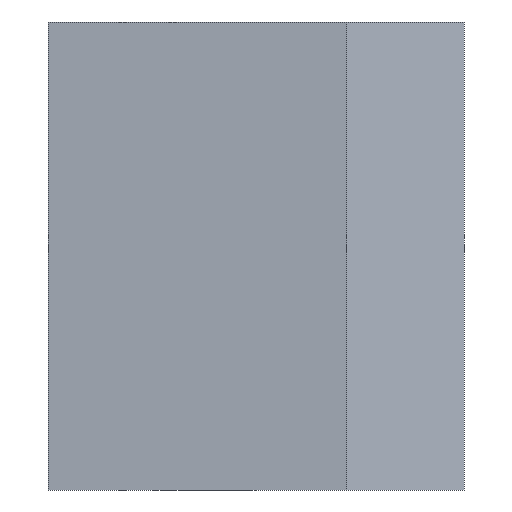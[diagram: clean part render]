
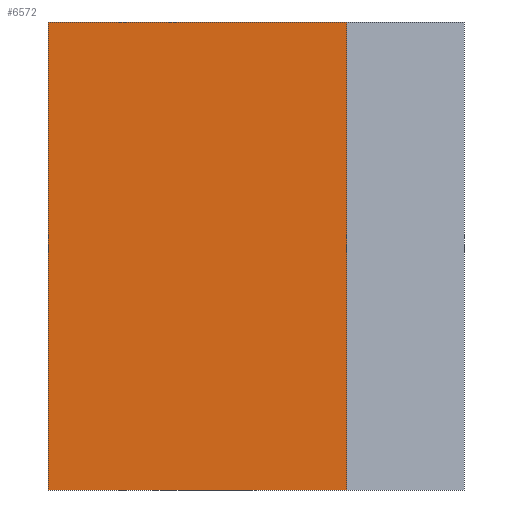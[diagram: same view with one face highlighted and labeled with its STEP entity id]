
A CAD part, front view. The second image highlights one B-rep face of the part: STEP entity #6572.
In plain terms, the highlighted planar face has unit normal (0, -1, 0).
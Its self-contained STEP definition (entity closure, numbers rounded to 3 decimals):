
#44 = PLANE('',#45);
#45 = AXIS2_PLACEMENT_3D('',#46,#47,#48);
#46 = CARTESIAN_POINT('',(-17.,-8.,-31.5));
#47 = DIRECTION('',(-1.,0.,0.));
#48 = DIRECTION('',(0.,1.,0.));
#72 = PLANE('',#73);
#73 = AXIS2_PLACEMENT_3D('',#74,#75,#76);
#74 = CARTESIAN_POINT('',(-12.48,40.278,-22.5));
#75 = DIRECTION('',(0.,0.,-1.));
#76 = DIRECTION('',(0.,1.,0.));
#126 = PLANE('',#127);
#127 = AXIS2_PLACEMENT_3D('',#128,#129,#130);
#128 = CARTESIAN_POINT('',(-12.48,40.278,-31.5));
#129 = DIRECTION('',(0.,0.,-1.));
#130 = DIRECTION('',(0.,1.,0.));
#141 = EDGE_CURVE('',#142,#144,#146,.T.);
#142 = VERTEX_POINT('',#143);
#143 = CARTESIAN_POINT('',(-17.,-8.,-31.5));
#144 = VERTEX_POINT('',#145);
#145 = CARTESIAN_POINT('',(-17.,-8.,-22.5));
#146 = SURFACE_CURVE('',#147,(#151,#158),.PCURVE_S1.);
#147 = LINE('',#148,#149);
#148 = CARTESIAN_POINT('',(-17.,-8.,-31.5));
#149 = VECTOR('',#150,1.);
#150 = DIRECTION('',(0.,0.,1.));
#151 = PCURVE('',#44,#152);
#152 = DEFINITIONAL_REPRESENTATION('',(#153),#157);
#153 = LINE('',#154,#155);
#154 = CARTESIAN_POINT('',(0.,0.));
#155 = VECTOR('',#156,1.);
#156 = DIRECTION('',(0.,-1.));
#157 = ( GEOMETRIC_REPRESENTATION_CONTEXT(2) 
PARAMETRIC_REPRESENTATION_CONTEXT() REPRESENTATION_CONTEXT('2D SPACE',''
  ) );
#158 = PCURVE('',#159,#164);
#159 = PLANE('',#160);
#160 = AXIS2_PLACEMENT_3D('',#161,#162,#163);
#161 = CARTESIAN_POINT('',(-11.25,-8.,-31.5));
#162 = DIRECTION('',(0.,-1.,0.));
#163 = DIRECTION('',(-1.,0.,0.));
#164 = DEFINITIONAL_REPRESENTATION('',(#165),#169);
#165 = LINE('',#166,#167);
#166 = CARTESIAN_POINT('',(5.75,0.));
#167 = VECTOR('',#168,1.);
#168 = DIRECTION('',(0.,-1.));
#169 = ( GEOMETRIC_REPRESENTATION_CONTEXT(2) 
PARAMETRIC_REPRESENTATION_CONTEXT() REPRESENTATION_CONTEXT('2D SPACE',''
  ) );
#3623 = VERTEX_POINT('',#3624);
#3624 = CARTESIAN_POINT('',(-11.25,-8.,-31.5));
#3638 = PLANE('',#3639);
#3639 = AXIS2_PLACEMENT_3D('',#3640,#3641,#3642);
#3640 = CARTESIAN_POINT('',(-11.25,-5.917,-31.5));
#3641 = DIRECTION('',(1.,0.,0.));
#3642 = DIRECTION('',(0.,-1.,0.));
#3650 = EDGE_CURVE('',#3623,#142,#3651,.T.);
#3651 = SURFACE_CURVE('',#3652,(#3656,#3663),.PCURVE_S1.);
#3652 = LINE('',#3653,#3654);
#3653 = CARTESIAN_POINT('',(-11.25,-8.,-31.5));
#3654 = VECTOR('',#3655,1.);
#3655 = DIRECTION('',(-1.,0.,0.));
#3656 = PCURVE('',#126,#3657);
#3657 = DEFINITIONAL_REPRESENTATION('',(#3658),#3662);
#3658 = LINE('',#3659,#3660);
#3659 = CARTESIAN_POINT('',(-48.278,1.23));
#3660 = VECTOR('',#3661,1.);
#3661 = DIRECTION('',(0.,-1.));
#3662 = ( GEOMETRIC_REPRESENTATION_CONTEXT(2) 
PARAMETRIC_REPRESENTATION_CONTEXT() REPRESENTATION_CONTEXT('2D SPACE',''
  ) );
#3663 = PCURVE('',#159,#3664);
#3664 = DEFINITIONAL_REPRESENTATION('',(#3665),#3669);
#3665 = LINE('',#3666,#3667);
#3666 = CARTESIAN_POINT('',(0.,0.));
#3667 = VECTOR('',#3668,1.);
#3668 = DIRECTION('',(1.,0.));
#3669 = ( GEOMETRIC_REPRESENTATION_CONTEXT(2) 
PARAMETRIC_REPRESENTATION_CONTEXT() REPRESENTATION_CONTEXT('2D SPACE',''
  ) );
#6477 = VERTEX_POINT('',#6478);
#6478 = CARTESIAN_POINT('',(-11.25,-8.,-22.5));
#6499 = EDGE_CURVE('',#6477,#144,#6500,.T.);
#6500 = SURFACE_CURVE('',#6501,(#6505,#6512),.PCURVE_S1.);
#6501 = LINE('',#6502,#6503);
#6502 = CARTESIAN_POINT('',(-11.25,-8.,-22.5));
#6503 = VECTOR('',#6504,1.);
#6504 = DIRECTION('',(-1.,0.,0.));
#6505 = PCURVE('',#72,#6506);
#6506 = DEFINITIONAL_REPRESENTATION('',(#6507),#6511);
#6507 = LINE('',#6508,#6509);
#6508 = CARTESIAN_POINT('',(-48.278,1.23));
#6509 = VECTOR('',#6510,1.);
#6510 = DIRECTION('',(0.,-1.));
#6511 = ( GEOMETRIC_REPRESENTATION_CONTEXT(2) 
PARAMETRIC_REPRESENTATION_CONTEXT() REPRESENTATION_CONTEXT('2D SPACE',''
  ) );
#6512 = PCURVE('',#159,#6513);
#6513 = DEFINITIONAL_REPRESENTATION('',(#6514),#6518);
#6514 = LINE('',#6515,#6516);
#6515 = CARTESIAN_POINT('',(0.,-9.));
#6516 = VECTOR('',#6517,1.);
#6517 = DIRECTION('',(1.,0.));
#6518 = ( GEOMETRIC_REPRESENTATION_CONTEXT(2) 
PARAMETRIC_REPRESENTATION_CONTEXT() REPRESENTATION_CONTEXT('2D SPACE',''
  ) );
#6572 = ADVANCED_FACE('',(#6573),#159,.T.);
#6573 = FACE_BOUND('',#6574,.T.);
#6574 = EDGE_LOOP('',(#6575,#6596,#6597,#6598));
#6575 = ORIENTED_EDGE('',*,*,#6576,.T.);
#6576 = EDGE_CURVE('',#3623,#6477,#6577,.T.);
#6577 = SURFACE_CURVE('',#6578,(#6582,#6589),.PCURVE_S1.);
#6578 = LINE('',#6579,#6580);
#6579 = CARTESIAN_POINT('',(-11.25,-8.,-31.5));
#6580 = VECTOR('',#6581,1.);
#6581 = DIRECTION('',(0.,0.,1.));
#6582 = PCURVE('',#159,#6583);
#6583 = DEFINITIONAL_REPRESENTATION('',(#6584),#6588);
#6584 = LINE('',#6585,#6586);
#6585 = CARTESIAN_POINT('',(0.,0.));
#6586 = VECTOR('',#6587,1.);
#6587 = DIRECTION('',(0.,-1.));
#6588 = ( GEOMETRIC_REPRESENTATION_CONTEXT(2) 
PARAMETRIC_REPRESENTATION_CONTEXT() REPRESENTATION_CONTEXT('2D SPACE',''
  ) );
#6589 = PCURVE('',#3638,#6590);
#6590 = DEFINITIONAL_REPRESENTATION('',(#6591),#6595);
#6591 = LINE('',#6592,#6593);
#6592 = CARTESIAN_POINT('',(2.083,0.));
#6593 = VECTOR('',#6594,1.);
#6594 = DIRECTION('',(0.,-1.));
#6595 = ( GEOMETRIC_REPRESENTATION_CONTEXT(2) 
PARAMETRIC_REPRESENTATION_CONTEXT() REPRESENTATION_CONTEXT('2D SPACE',''
  ) );
#6596 = ORIENTED_EDGE('',*,*,#6499,.T.);
#6597 = ORIENTED_EDGE('',*,*,#141,.F.);
#6598 = ORIENTED_EDGE('',*,*,#3650,.F.);
